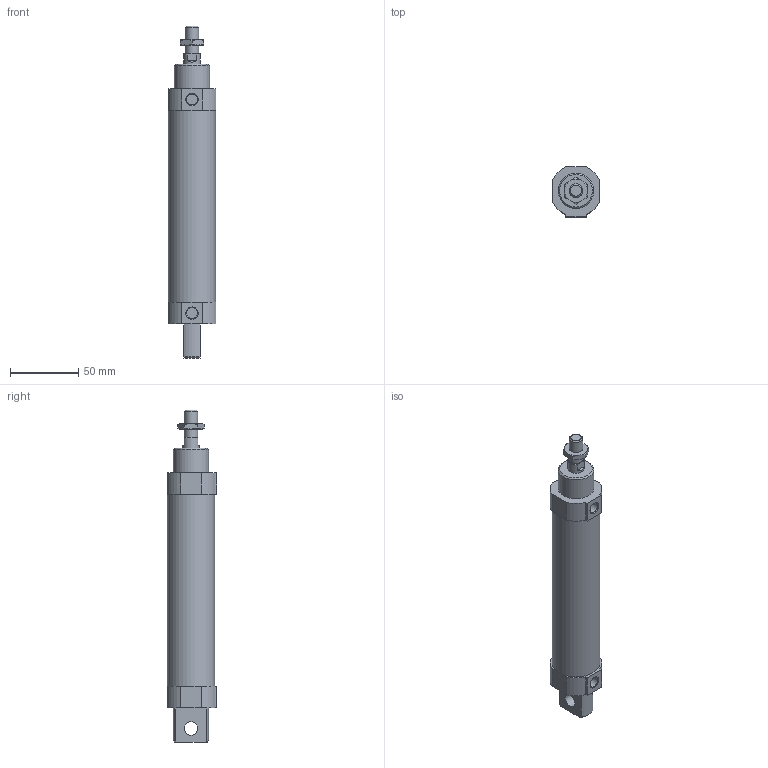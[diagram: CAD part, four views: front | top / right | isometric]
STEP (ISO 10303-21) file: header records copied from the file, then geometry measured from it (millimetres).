
FILE_DESCRIPTION((''),'2;1');
FILE_NAME('I:\3D電子目錄\氣缸\FDA\FDA\FDA\FDA30\FDA30x100.stp','2007-10-16T10:04:32',('66-2f-008'),(''),'Autodesk Inventor 11','Autodesk Inventor 11','');
FILE_SCHEMA(('AUTOMOTIVE_DESIGN { 1 0 10303 214 1 1 1 1 }'));
Length unit declared in the file: millimetre
Products named in the file (1): FDA30
Bounding box: 35 x 36.5 x 244 mm (x, y, z)
Volume: 189095.9 mm3; surface area: 26942.3 mm2
Topology: 1 solids, 1 shells, 79 faces, 184 edges, 114 vertices
Faces by surface type: plane 41, cone 20, cylinder 18
Full cylindrical faces by diameter (mm): 8 x2, 10 x3, 12 x1, 26 x1, 35 x1
Entity records: 2151 total; most frequent: CARTESIAN_POINT 426, DIRECTION 362, ORIENTED_EDGE 340, EDGE_CURVE 170, AXIS2_PLACEMENT_3D 144, VERTEX_POINT 112, EDGE_LOOP 100, FACE_OUTER_BOUND 79
